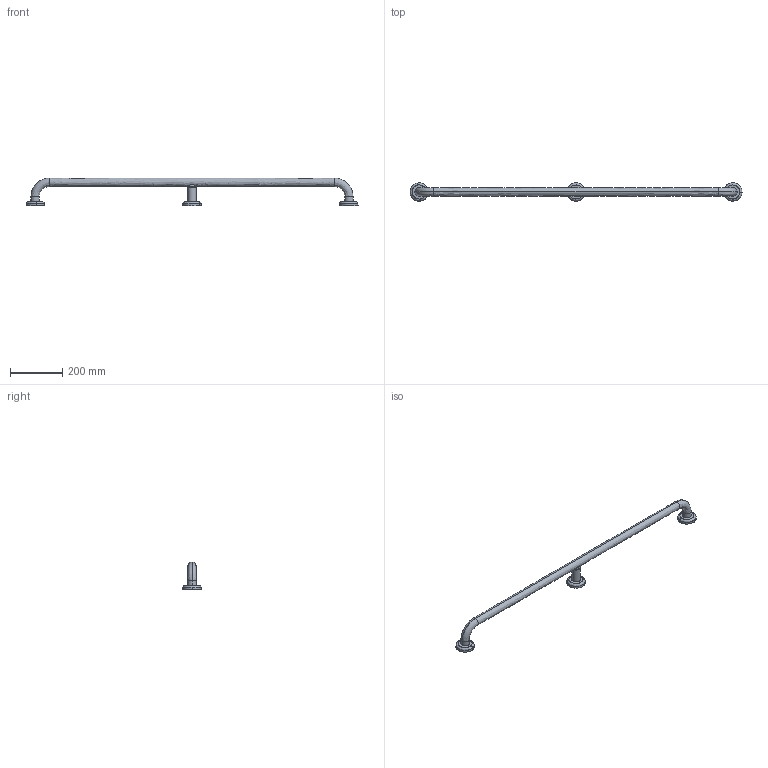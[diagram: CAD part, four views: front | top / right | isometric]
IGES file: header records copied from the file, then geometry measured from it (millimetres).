
Start section: SolidWorks IGES file using NURBS representation for surfaces
Global section: file name: D:\JÚLIO\#1# PRODUTOS\ACESSÓRIOS DE CASA DE BANHO\Séries de Acessórios\WCcare\48066 - apoio simples 120\biblioteca 3D\48066_igs.IGS; native system: SolidWorks 2019; preprocessor: SolidWorks 2019; author: Julio; date: 181210.141410; units: millimetre
Bounding box: 1270 x 70 x 106 mm (x, y, z)
Surface area: 165174.8 mm2 (no closed solid volume)
Topology: 0 solids, 0 shells, 44 faces, 1021 edges, 1021 vertices
Faces by surface type: bspline 44
